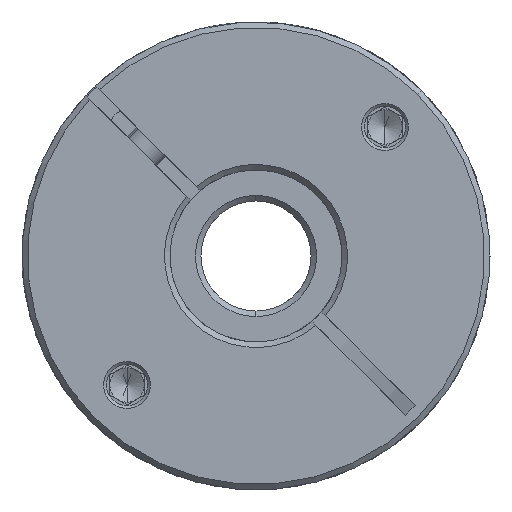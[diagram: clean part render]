
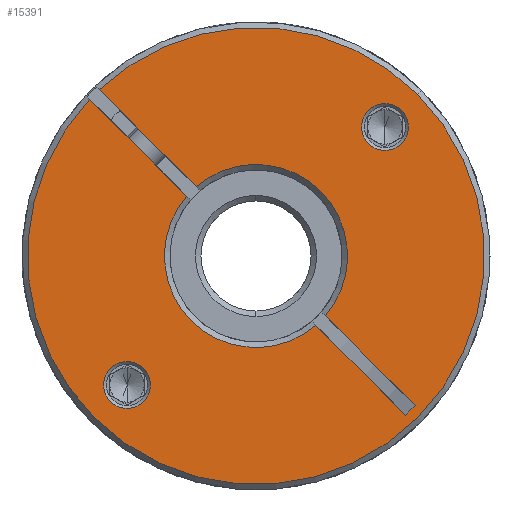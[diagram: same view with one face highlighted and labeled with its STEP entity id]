
A CAD part, front view. The second image highlights one B-rep face of the part: STEP entity #15391.
In plain terms, the highlighted planar face has unit normal (0, -1, 0).
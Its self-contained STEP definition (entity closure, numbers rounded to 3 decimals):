
#3 = AXIS2_PLACEMENT_3D ( 'NONE', #6630, #16531, #16603 ) ;
#53 = VECTOR ( 'NONE', #20505, 1000. ) ;
#124 = FACE_OUTER_BOUND ( 'NONE', #17693, .T. ) ;
#461 = CARTESIAN_POINT ( 'NONE',  ( -2.735, -67.045, 68. ) ) ;
#570 = DIRECTION ( 'NONE',  ( 0.707, 0., 0.707 ) ) ;
#617 = AXIS2_PLACEMENT_3D ( 'NONE', #5052, #13378, #3454 ) ;
#778 = VERTEX_POINT ( 'NONE', #5606 ) ;
#1074 = CARTESIAN_POINT ( 'NONE',  ( -21.473, -67.045, 49.262 ) ) ;
#1128 = AXIS2_PLACEMENT_3D ( 'NONE', #7822, #12698, #16160 ) ;
#1257 = DIRECTION ( 'NONE',  ( 0.707, 0., 0.707 ) ) ;
#1322 = VERTEX_POINT ( 'NONE', #21255 ) ;
#1522 = DIRECTION ( 'NONE',  ( 0.707, 0., -0.707 ) ) ;
#1853 = LINE ( 'NONE', #5110, #53 ) ;
#2305 = ORIENTED_EDGE ( 'NONE', *, *, #10482, .T. ) ;
#2359 = AXIS2_PLACEMENT_3D ( 'NONE', #8978, #19024, #7485 ) ;
#2438 = LINE ( 'NONE', #16784, #19662 ) ;
#2615 = LINE ( 'NONE', #13786, #13069 ) ;
#3115 = EDGE_CURVE ( 'NONE', #10516, #12889, #21331, .T. ) ;
#3289 = ORIENTED_EDGE ( 'NONE', *, *, #19922, .T. ) ;
#3454 = DIRECTION ( 'NONE',  ( 0.707, 0., 0.707 ) ) ;
#3825 = DIRECTION ( 'NONE',  ( 0.707, 0., 0.707 ) ) ;
#3854 = CARTESIAN_POINT ( 'NONE',  ( 20.741, -67.045, 91.476 ) ) ;
#4001 = LINE ( 'NONE', #19792, #18131 ) ;
#4126 = ORIENTED_EDGE ( 'NONE', *, *, #3115, .T. ) ;
#4128 = DIRECTION ( 'NONE',  ( 0.707, 0., 0.707 ) ) ;
#4307 = CARTESIAN_POINT ( 'NONE',  ( -26.211, -67.045, 44.524 ) ) ;
#4543 = ORIENTED_EDGE ( 'NONE', *, *, #15171, .T. ) ;
#4747 = AXIS2_PLACEMENT_3D ( 'NONE', #8076, #19813, #1257 ) ;
#4875 = VERTEX_POINT ( 'NONE', #5145 ) ;
#5052 = CARTESIAN_POINT ( 'NONE',  ( -2.735, -67.045, 68. ) ) ;
#5060 = ORIENTED_EDGE ( 'NONE', *, *, #15297, .F. ) ;
#5110 = CARTESIAN_POINT ( 'NONE',  ( -2.028, -67.045, 68.707 ) ) ;
#5145 = CARTESIAN_POINT ( 'NONE',  ( -23.878, -67.045, 46.858 ) ) ;
#5278 = VECTOR ( 'NONE', #8975, 1000. ) ;
#5606 = CARTESIAN_POINT ( 'NONE',  ( 13.599, -67.045, 84.334 ) ) ;
#5682 = ORIENTED_EDGE ( 'NONE', *, *, #14472, .T. ) ;
#6008 = CARTESIAN_POINT ( 'NONE',  ( -2.735, -67.045, 68. ) ) ;
#6026 = EDGE_LOOP ( 'NONE', ( #8010, #2305 ) ) ;
#6310 = CARTESIAN_POINT ( 'NONE',  ( -19.069, -67.045, 51.666 ) ) ;
#6630 = CARTESIAN_POINT ( 'NONE',  ( 16.003, -67.045, 86.738 ) ) ;
#6861 = AXIS2_PLACEMENT_3D ( 'NONE', #10567, #15681, #7406 ) ;
#7024 = DIRECTION ( 'NONE',  ( 0.707, 0., 0.707 ) ) ;
#7122 = AXIS2_PLACEMENT_3D ( 'NONE', #13795, #15473, #570 ) ;
#7300 = EDGE_CURVE ( 'NONE', #12633, #9229, #17554, .T. ) ;
#7406 = DIRECTION ( 'NONE',  ( 0.707, 0., 0.707 ) ) ;
#7419 = VERTEX_POINT ( 'NONE', #16158 ) ;
#7485 = DIRECTION ( 'NONE',  ( 0.707, 0., 0.707 ) ) ;
#7822 = CARTESIAN_POINT ( 'NONE',  ( -2.735, -67.045, 68. ) ) ;
#7911 = AXIS2_PLACEMENT_3D ( 'NONE', #18798, #8669, #3825 ) ;
#8010 = ORIENTED_EDGE ( 'NONE', *, *, #13925, .T. ) ;
#8076 = CARTESIAN_POINT ( 'NONE',  ( -2.735, -67.045, 68. ) ) ;
#8609 = DIRECTION ( 'NONE',  ( 0.707, 0., -0.707 ) ) ;
#8669 = DIRECTION ( 'NONE',  ( 0., 1., 0. ) ) ;
#8750 = EDGE_CURVE ( 'NONE', #14223, #10516, #19057, .T. ) ;
#8975 = DIRECTION ( 'NONE',  ( 0.707, 0., -0.707 ) ) ;
#8978 = CARTESIAN_POINT ( 'NONE',  ( -2.735, -67.045, 68. ) ) ;
#9229 = VERTEX_POINT ( 'NONE', #20365 ) ;
#9347 = DIRECTION ( 'NONE',  ( 0., 1., 0. ) ) ;
#9739 = CARTESIAN_POINT ( 'NONE',  ( -11.406, -67.045, 78.085 ) ) ;
#9812 = CIRCLE ( 'NONE', #617, 13.3 ) ;
#9972 = VERTEX_POINT ( 'NONE', #21309 ) ;
#10173 = CARTESIAN_POINT ( 'NONE',  ( -26.908, -67.045, 90.758 ) ) ;
#10482 = EDGE_CURVE ( 'NONE', #4875, #11017, #20266, .T. ) ;
#10516 = VERTEX_POINT ( 'NONE', #4307 ) ;
#10567 = CARTESIAN_POINT ( 'NONE',  ( -2.735, -67.045, 68. ) ) ;
#10790 = CARTESIAN_POINT ( 'NONE',  ( 18.407, -67.045, 89.142 ) ) ;
#10958 = AXIS2_PLACEMENT_3D ( 'NONE', #461, #17062, #7024 ) ;
#11017 = VERTEX_POINT ( 'NONE', #6310 ) ;
#11794 = DIRECTION ( 'NONE',  ( -0.707, 0., -0.707 ) ) ;
#12067 = FACE_BOUND ( 'NONE', #18793, .T. ) ;
#12160 = CARTESIAN_POINT ( 'NONE',  ( -3.442, -67.045, 67.293 ) ) ;
#12164 = EDGE_CURVE ( 'NONE', #7419, #14274, #9812, .T. ) ;
#12439 = PLANE ( 'NONE',  #15215 ) ;
#12633 = VERTEX_POINT ( 'NONE', #18471 ) ;
#12681 = DIRECTION ( 'NONE',  ( 0.707, 0., 0.707 ) ) ;
#12698 = DIRECTION ( 'NONE',  ( 0., -1., 0. ) ) ;
#12778 = ORIENTED_EDGE ( 'NONE', *, *, #16386, .T. ) ;
#12851 = EDGE_CURVE ( 'NONE', #778, #16479, #15581, .T. ) ;
#12889 = VERTEX_POINT ( 'NONE', #3854 ) ;
#12897 = ORIENTED_EDGE ( 'NONE', *, *, #8750, .T. ) ;
#13069 = VECTOR ( 'NONE', #8609, 1000. ) ;
#13378 = DIRECTION ( 'NONE',  ( 0., 1., 0. ) ) ;
#13786 = CARTESIAN_POINT ( 'NONE',  ( -2.028, -67.045, 68.707 ) ) ;
#13795 = CARTESIAN_POINT ( 'NONE',  ( 16.003, -67.045, 86.738 ) ) ;
#13925 = EDGE_CURVE ( 'NONE', #11017, #4875, #18917, .T. ) ;
#14203 = CARTESIAN_POINT ( 'NONE',  ( 18.988, -67.045, 44.862 ) ) ;
#14223 = VERTEX_POINT ( 'NONE', #10173 ) ;
#14274 = VERTEX_POINT ( 'NONE', #17046 ) ;
#14472 = EDGE_CURVE ( 'NONE', #12889, #1322, #15526, .T. ) ;
#14558 = EDGE_CURVE ( 'NONE', #7419, #18587, #4001, .T. ) ;
#14956 = FACE_BOUND ( 'NONE', #6026, .T. ) ;
#15104 = CIRCLE ( 'NONE', #3, 3.4 ) ;
#15171 = EDGE_CURVE ( 'NONE', #9972, #18587, #2438, .T. ) ;
#15215 = AXIS2_PLACEMENT_3D ( 'NONE', #6008, #17496, #4128 ) ;
#15297 = EDGE_CURVE ( 'NONE', #14223, #14274, #19386, .T. ) ;
#15391 = ADVANCED_FACE ( 'NONE', ( #12067, #14956, #124 ), #12439, .T. ) ;
#15459 = CIRCLE ( 'NONE', #4747, 13.3 ) ;
#15473 = DIRECTION ( 'NONE',  ( 0., 1., 0. ) ) ;
#15526 = CIRCLE ( 'NONE', #1128, 33.2 ) ;
#15581 = CIRCLE ( 'NONE', #7122, 3.4 ) ;
#15681 = DIRECTION ( 'NONE',  ( 0., 1., 0. ) ) ;
#16088 = ORIENTED_EDGE ( 'NONE', *, *, #12164, .T. ) ;
#16158 = CARTESIAN_POINT ( 'NONE',  ( 5.936, -67.045, 57.915 ) ) ;
#16160 = DIRECTION ( 'NONE',  ( 0.707, 0., 0.707 ) ) ;
#16334 = ORIENTED_EDGE ( 'NONE', *, *, #17638, .T. ) ;
#16386 = EDGE_CURVE ( 'NONE', #20904, #12633, #15459, .T. ) ;
#16479 = VERTEX_POINT ( 'NONE', #10790 ) ;
#16531 = DIRECTION ( 'NONE',  ( 0., 1., 0. ) ) ;
#16603 = DIRECTION ( 'NONE',  ( 0.707, 0., 0.707 ) ) ;
#16784 = CARTESIAN_POINT ( 'NONE',  ( 18.988, -67.045, 44.862 ) ) ;
#17046 = CARTESIAN_POINT ( 'NONE',  ( -12.82, -67.045, 76.671 ) ) ;
#17062 = DIRECTION ( 'NONE',  ( 0., -1., 0. ) ) ;
#17496 = DIRECTION ( 'NONE',  ( 0., -1., 0. ) ) ;
#17554 = CIRCLE ( 'NONE', #6861, 13.3 ) ;
#17638 = EDGE_CURVE ( 'NONE', #9229, #9972, #1853, .T. ) ;
#17693 = EDGE_LOOP ( 'NONE', ( #5060, #12897, #4126, #5682, #3289, #12778, #21447, #16334, #4543, #20499, #16088 ) ) ;
#18131 = VECTOR ( 'NONE', #1522, 1000. ) ;
#18471 = CARTESIAN_POINT ( 'NONE',  ( 6.669, -67.045, 77.405 ) ) ;
#18587 = VERTEX_POINT ( 'NONE', #14203 ) ;
#18793 = EDGE_LOOP ( 'NONE', ( #20995, #20356 ) ) ;
#18798 = CARTESIAN_POINT ( 'NONE',  ( -21.473, -67.045, 49.262 ) ) ;
#18839 = AXIS2_PLACEMENT_3D ( 'NONE', #1074, #9347, #12681 ) ;
#18917 = CIRCLE ( 'NONE', #7911, 3.4 ) ;
#19024 = DIRECTION ( 'NONE',  ( 0., -1., 0. ) ) ;
#19057 = CIRCLE ( 'NONE', #10958, 33.2 ) ;
#19386 = LINE ( 'NONE', #12160, #5278 ) ;
#19662 = VECTOR ( 'NONE', #11794, 1000. ) ;
#19792 = CARTESIAN_POINT ( 'NONE',  ( -3.442, -67.045, 67.293 ) ) ;
#19813 = DIRECTION ( 'NONE',  ( 0., 1., 0. ) ) ;
#19922 = EDGE_CURVE ( 'NONE', #1322, #20904, #2615, .T. ) ;
#20266 = CIRCLE ( 'NONE', #18839, 3.4 ) ;
#20356 = ORIENTED_EDGE ( 'NONE', *, *, #12851, .T. ) ;
#20365 = CARTESIAN_POINT ( 'NONE',  ( 7.35, -67.045, 59.329 ) ) ;
#20499 = ORIENTED_EDGE ( 'NONE', *, *, #14558, .F. ) ;
#20505 = DIRECTION ( 'NONE',  ( 0.707, 0., -0.707 ) ) ;
#20901 = EDGE_CURVE ( 'NONE', #16479, #778, #15104, .T. ) ;
#20904 = VERTEX_POINT ( 'NONE', #9739 ) ;
#20995 = ORIENTED_EDGE ( 'NONE', *, *, #20901, .T. ) ;
#21255 = CARTESIAN_POINT ( 'NONE',  ( -25.493, -67.045, 92.172 ) ) ;
#21309 = CARTESIAN_POINT ( 'NONE',  ( 20.402, -67.045, 46.277 ) ) ;
#21331 = CIRCLE ( 'NONE', #2359, 33.2 ) ;
#21447 = ORIENTED_EDGE ( 'NONE', *, *, #7300, .T. ) ;
